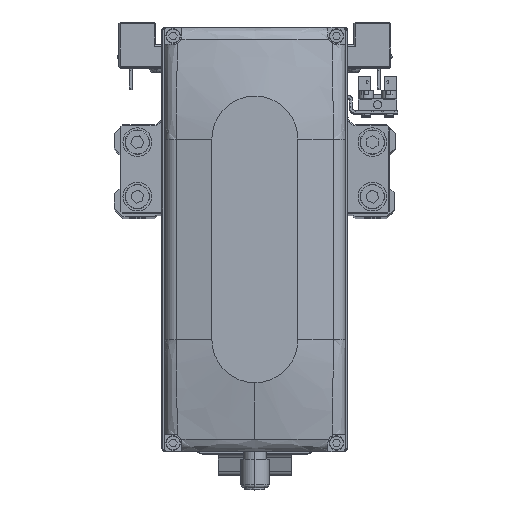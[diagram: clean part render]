
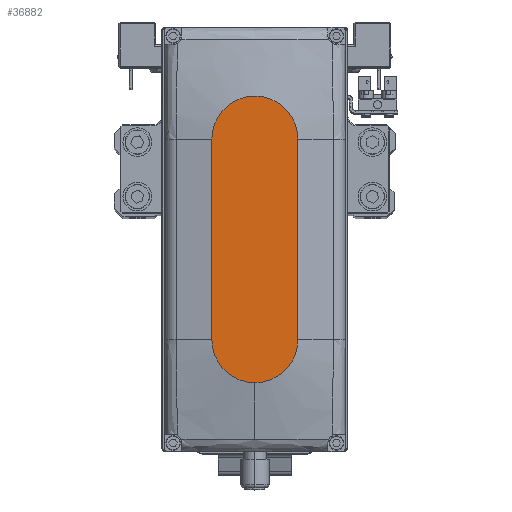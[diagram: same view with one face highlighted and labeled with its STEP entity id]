
A CAD part, top view. The second image highlights one B-rep face of the part: STEP entity #36882.
In plain terms, the highlighted planar face has unit normal (0, 0, 1).
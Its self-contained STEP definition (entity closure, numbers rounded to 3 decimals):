
#182 = EDGE_CURVE ( 'NONE', #1380, #28169, #2206, .T. ) ;
#1380 = VERTEX_POINT ( 'NONE', #22400 ) ;
#1549 = LINE ( 'NONE', #13782, #38365 ) ;
#2122 = DIRECTION ( 'NONE',  ( 0., 0., 1. ) ) ;
#2206 = CIRCLE ( 'NONE', #24592, 15. ) ;
#2697 = ORIENTED_EDGE ( 'NONE', *, *, #36775, .T. ) ;
#3343 = EDGE_CURVE ( 'NONE', #18316, #16332, #22385, .T. ) ;
#4196 = CARTESIAN_POINT ( 'NONE',  ( -35., 15., 35. ) ) ;
#4289 = VERTEX_POINT ( 'NONE', #16898 ) ;
#5120 = AXIS2_PLACEMENT_3D ( 'NONE', #25997, #38199, #10808 ) ;
#5544 = DIRECTION ( 'NONE',  ( 0., 0., 1. ) ) ;
#8563 = FACE_OUTER_BOUND ( 'NONE', #27889, .T. ) ;
#9983 = CARTESIAN_POINT ( 'NONE',  ( -35., -15., 35. ) ) ;
#10753 = CARTESIAN_POINT ( 'NONE',  ( -35., 0., 35. ) ) ;
#10808 = DIRECTION ( 'NONE',  ( 1., 0., 0. ) ) ;
#12215 = CIRCLE ( 'NONE', #34566, 15. ) ;
#12383 = ORIENTED_EDGE ( 'NONE', *, *, #3343, .T. ) ;
#12704 = VECTOR ( 'NONE', #16413, 1000. ) ;
#13782 = CARTESIAN_POINT ( 'NONE',  ( -35., -15., 35. ) ) ;
#14352 = DIRECTION ( 'NONE',  ( 1., 0., 0. ) ) ;
#14374 = EDGE_CURVE ( 'NONE', #16332, #4289, #12215, .T. ) ;
#15905 = CARTESIAN_POINT ( 'NONE',  ( 35., -15., 35. ) ) ;
#16332 = VERTEX_POINT ( 'NONE', #21900 ) ;
#16413 = DIRECTION ( 'NONE',  ( -1., 0., 0. ) ) ;
#16898 = CARTESIAN_POINT ( 'NONE',  ( 35., 15., 35. ) ) ;
#17748 = DIRECTION ( 'NONE',  ( 1., 0., 0. ) ) ;
#18316 = VERTEX_POINT ( 'NONE', #15905 ) ;
#20039 = ORIENTED_EDGE ( 'NONE', *, *, #182, .T. ) ;
#20493 = AXIS2_PLACEMENT_3D ( 'NONE', #32965, #5544, #17748 ) ;
#20762 = PLANE ( 'NONE',  #20493 ) ;
#21900 = CARTESIAN_POINT ( 'NONE',  ( 50., 0., 35. ) ) ;
#22385 = CIRCLE ( 'NONE', #5120, 15. ) ;
#22400 = CARTESIAN_POINT ( 'NONE',  ( -35., 15., 35. ) ) ;
#22420 = EDGE_CURVE ( 'NONE', #4289, #1380, #31614, .T. ) ;
#22936 = DIRECTION ( 'NONE',  ( 0., 0., 1. ) ) ;
#23963 = ORIENTED_EDGE ( 'NONE', *, *, #22420, .T. ) ;
#24592 = AXIS2_PLACEMENT_3D ( 'NONE', #10753, #22936, #35151 ) ;
#25978 = DIRECTION ( 'NONE',  ( 1., 0., 0. ) ) ;
#25997 = CARTESIAN_POINT ( 'NONE',  ( 35., 0., 35. ) ) ;
#27889 = EDGE_LOOP ( 'NONE', ( #23963, #20039, #2697, #12383, #36669 ) ) ;
#28169 = VERTEX_POINT ( 'NONE', #9983 ) ;
#29545 = CARTESIAN_POINT ( 'NONE',  ( 35., 0., 35. ) ) ;
#31614 = LINE ( 'NONE', #4196, #12704 ) ;
#32965 = CARTESIAN_POINT ( 'NONE',  ( 0., 0., 35. ) ) ;
#34566 = AXIS2_PLACEMENT_3D ( 'NONE', #29545, #2122, #14352 ) ;
#35151 = DIRECTION ( 'NONE',  ( 1., 0., 0. ) ) ;
#36669 = ORIENTED_EDGE ( 'NONE', *, *, #14374, .T. ) ;
#36775 = EDGE_CURVE ( 'NONE', #28169, #18316, #1549, .T. ) ;
#36882 = ADVANCED_FACE ( 'NONE', ( #8563 ), #20762, .T. ) ;
#38199 = DIRECTION ( 'NONE',  ( 0., 0., 1. ) ) ;
#38365 = VECTOR ( 'NONE', #25978, 1000. ) ;
